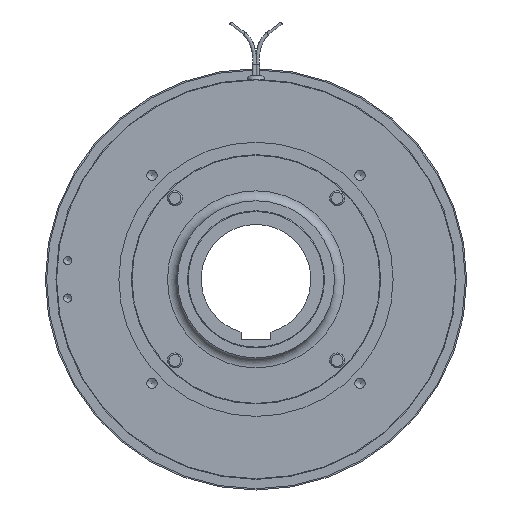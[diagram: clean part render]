
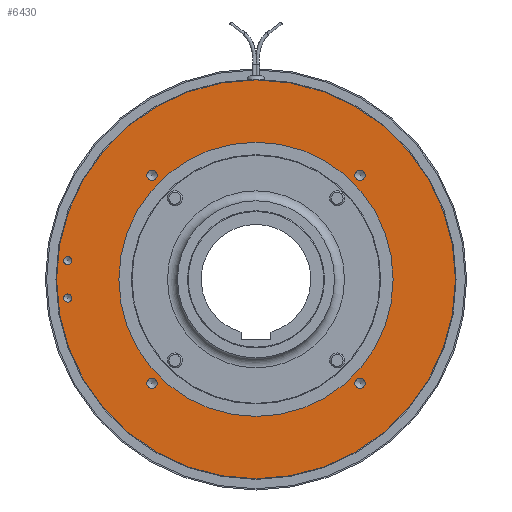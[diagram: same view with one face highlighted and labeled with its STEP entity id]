
A CAD part, left-side view. The second image highlights one B-rep face of the part: STEP entity #6430.
In plain terms, the highlighted planar face has unit normal (-1, 0, 0).
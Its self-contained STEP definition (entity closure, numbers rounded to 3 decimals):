
#526=FACE_BOUND('',#1419,.T.);
#527=FACE_BOUND('',#1420,.T.);
#528=FACE_BOUND('',#1421,.T.);
#529=FACE_BOUND('',#1422,.T.);
#530=FACE_BOUND('',#1423,.T.);
#531=FACE_BOUND('',#1424,.T.);
#532=FACE_BOUND('',#1425,.T.);
#649=PLANE('',#7286);
#972=FACE_OUTER_BOUND('',#1418,.T.);
#1418=EDGE_LOOP('',(#5938,#5939,#5940));
#1419=EDGE_LOOP('',(#5941,#5942));
#1420=EDGE_LOOP('',(#5943,#5944));
#1421=EDGE_LOOP('',(#5945,#5946));
#1422=EDGE_LOOP('',(#5947,#5948));
#1423=EDGE_LOOP('',(#5949,#5950));
#1424=EDGE_LOOP('',(#5951,#5952));
#1425=EDGE_LOOP('',(#5953,#5954));
#2571=CIRCLE('',#7258,80.);
#2572=CIRCLE('',#7259,80.);
#2573=CIRCLE('',#7261,80.);
#2589=CIRCLE('',#7284,55.);
#2590=CIRCLE('',#7285,55.);
#2591=CIRCLE('',#7287,1.621);
#2592=CIRCLE('',#7288,1.621);
#2593=CIRCLE('',#7289,1.621);
#2594=CIRCLE('',#7290,1.621);
#2595=CIRCLE('',#7291,2.067);
#2596=CIRCLE('',#7292,2.067);
#2597=CIRCLE('',#7293,2.067);
#2598=CIRCLE('',#7294,2.067);
#2599=CIRCLE('',#7295,2.067);
#2600=CIRCLE('',#7296,2.067);
#2601=CIRCLE('',#7297,2.067);
#2602=CIRCLE('',#7298,2.067);
#3225=VERTEX_POINT('',#11588);
#3226=VERTEX_POINT('',#11590);
#3227=VERTEX_POINT('',#11592);
#3245=VERTEX_POINT('',#11678);
#3246=VERTEX_POINT('',#11679);
#3247=VERTEX_POINT('',#11684);
#3248=VERTEX_POINT('',#11685);
#3249=VERTEX_POINT('',#11688);
#3250=VERTEX_POINT('',#11689);
#3251=VERTEX_POINT('',#11692);
#3252=VERTEX_POINT('',#11693);
#3253=VERTEX_POINT('',#11696);
#3254=VERTEX_POINT('',#11697);
#3255=VERTEX_POINT('',#11700);
#3256=VERTEX_POINT('',#11701);
#3257=VERTEX_POINT('',#11704);
#3258=VERTEX_POINT('',#11705);
#4127=EDGE_CURVE('',#3226,#3225,#2571,.T.);
#4128=EDGE_CURVE('',#3227,#3226,#2572,.T.);
#4134=EDGE_CURVE('',#3225,#3227,#2573,.T.);
#4153=EDGE_CURVE('',#3245,#3246,#2589,.T.);
#4155=EDGE_CURVE('',#3246,#3245,#2590,.T.);
#4156=EDGE_CURVE('',#3247,#3248,#2591,.T.);
#4157=EDGE_CURVE('',#3248,#3247,#2592,.T.);
#4158=EDGE_CURVE('',#3249,#3250,#2593,.T.);
#4159=EDGE_CURVE('',#3250,#3249,#2594,.T.);
#4160=EDGE_CURVE('',#3251,#3252,#2595,.T.);
#4161=EDGE_CURVE('',#3252,#3251,#2596,.T.);
#4162=EDGE_CURVE('',#3253,#3254,#2597,.T.);
#4163=EDGE_CURVE('',#3254,#3253,#2598,.T.);
#4164=EDGE_CURVE('',#3255,#3256,#2599,.T.);
#4165=EDGE_CURVE('',#3256,#3255,#2600,.T.);
#4166=EDGE_CURVE('',#3257,#3258,#2601,.T.);
#4167=EDGE_CURVE('',#3258,#3257,#2602,.T.);
#5938=ORIENTED_EDGE('',*,*,#4127,.T.);
#5939=ORIENTED_EDGE('',*,*,#4134,.T.);
#5940=ORIENTED_EDGE('',*,*,#4128,.T.);
#5941=ORIENTED_EDGE('',*,*,#4156,.T.);
#5942=ORIENTED_EDGE('',*,*,#4157,.T.);
#5943=ORIENTED_EDGE('',*,*,#4158,.T.);
#5944=ORIENTED_EDGE('',*,*,#4159,.T.);
#5945=ORIENTED_EDGE('',*,*,#4160,.T.);
#5946=ORIENTED_EDGE('',*,*,#4161,.T.);
#5947=ORIENTED_EDGE('',*,*,#4162,.T.);
#5948=ORIENTED_EDGE('',*,*,#4163,.T.);
#5949=ORIENTED_EDGE('',*,*,#4164,.T.);
#5950=ORIENTED_EDGE('',*,*,#4165,.T.);
#5951=ORIENTED_EDGE('',*,*,#4166,.T.);
#5952=ORIENTED_EDGE('',*,*,#4167,.T.);
#5953=ORIENTED_EDGE('',*,*,#4153,.F.);
#5954=ORIENTED_EDGE('',*,*,#4155,.F.);
#6430=ADVANCED_FACE('',(#972,#526,#527,#528,#529,#530,#531,#532),#649,.T.);
#7258=AXIS2_PLACEMENT_3D('',#11591,#9213,#9214);
#7259=AXIS2_PLACEMENT_3D('',#11593,#9215,#9216);
#7261=AXIS2_PLACEMENT_3D('',#11638,#9222,#9223);
#7284=AXIS2_PLACEMENT_3D('',#11680,#9271,#9272);
#7285=AXIS2_PLACEMENT_3D('',#11682,#9274,#9275);
#7286=AXIS2_PLACEMENT_3D('',#11683,#9276,#9277);
#7287=AXIS2_PLACEMENT_3D('',#11686,#9278,#9279);
#7288=AXIS2_PLACEMENT_3D('',#11687,#9280,#9281);
#7289=AXIS2_PLACEMENT_3D('',#11690,#9282,#9283);
#7290=AXIS2_PLACEMENT_3D('',#11691,#9284,#9285);
#7291=AXIS2_PLACEMENT_3D('',#11694,#9286,#9287);
#7292=AXIS2_PLACEMENT_3D('',#11695,#9288,#9289);
#7293=AXIS2_PLACEMENT_3D('',#11698,#9290,#9291);
#7294=AXIS2_PLACEMENT_3D('',#11699,#9292,#9293);
#7295=AXIS2_PLACEMENT_3D('',#11702,#9294,#9295);
#7296=AXIS2_PLACEMENT_3D('',#11703,#9296,#9297);
#7297=AXIS2_PLACEMENT_3D('',#11706,#9298,#9299);
#7298=AXIS2_PLACEMENT_3D('',#11707,#9300,#9301);
#9213=DIRECTION('center_axis',(-1.,0.,0.));
#9214=DIRECTION('ref_axis',(0.,1.,0.));
#9215=DIRECTION('center_axis',(-1.,0.,0.));
#9216=DIRECTION('ref_axis',(0.,1.,0.));
#9222=DIRECTION('center_axis',(-1.,0.,0.));
#9223=DIRECTION('ref_axis',(0.,1.,0.));
#9271=DIRECTION('center_axis',(-1.,0.,0.));
#9272=DIRECTION('ref_axis',(0.,1.,0.));
#9274=DIRECTION('center_axis',(-1.,0.,0.));
#9275=DIRECTION('ref_axis',(0.,1.,0.));
#9276=DIRECTION('center_axis',(-1.,0.,0.));
#9277=DIRECTION('ref_axis',(0.,0.,
1.));
#9278=DIRECTION('center_axis',(1.,0.,0.));
#9279=DIRECTION('ref_axis',(0.,0.,
1.));
#9280=DIRECTION('center_axis',(1.,0.,0.));
#9281=DIRECTION('ref_axis',(0.,0.,
1.));
#9282=DIRECTION('center_axis',(1.,0.,0.));
#9283=DIRECTION('ref_axis',(0.,0.,
1.));
#9284=DIRECTION('center_axis',(1.,0.,0.));
#9285=DIRECTION('ref_axis',(0.,0.,
1.));
#9286=DIRECTION('center_axis',(1.,0.,0.));
#9287=DIRECTION('ref_axis',(0.,0.,
1.));
#9288=DIRECTION('center_axis',(1.,0.,0.));
#9289=DIRECTION('ref_axis',(0.,0.,
1.));
#9290=DIRECTION('center_axis',(1.,0.,0.));
#9291=DIRECTION('ref_axis',(0.,0.,
1.));
#9292=DIRECTION('center_axis',(1.,0.,0.));
#9293=DIRECTION('ref_axis',(0.,0.,
1.));
#9294=DIRECTION('center_axis',(1.,0.,0.));
#9295=DIRECTION('ref_axis',(0.,0.,
1.));
#9296=DIRECTION('center_axis',(1.,0.,0.));
#9297=DIRECTION('ref_axis',(0.,0.,
1.));
#9298=DIRECTION('center_axis',(1.,0.,0.));
#9299=DIRECTION('ref_axis',(0.,0.,
1.));
#9300=DIRECTION('center_axis',(1.,0.,0.));
#9301=DIRECTION('ref_axis',(0.,0.,
1.));
#11588=CARTESIAN_POINT('',(-15.,-80.,0.));
#11590=CARTESIAN_POINT('',(-15.,80.,0.));
#11591=CARTESIAN_POINT('Origin',(-15.,0.,0.));
#11592=CARTESIAN_POINT('',(-15.,0.,80.));
#11593=CARTESIAN_POINT('Origin',(-15.,0.,0.));
#11638=CARTESIAN_POINT('Origin',(-15.,0.,0.));
#11678=CARTESIAN_POINT('',(-15.,55.,0.));
#11679=CARTESIAN_POINT('',(-15.,-55.,0.));
#11680=CARTESIAN_POINT('Origin',(-15.,0.,0.));
#11682=CARTESIAN_POINT('Origin',(-15.,0.,0.));
#11683=CARTESIAN_POINT('Origin',(-15.,67.5,0.));
#11684=CARTESIAN_POINT('',(-15.,75.5,9.121));
#11685=CARTESIAN_POINT('',(-15.,75.5,5.879));
#11686=CARTESIAN_POINT('Origin',(-15.,75.5,7.5));
#11687=CARTESIAN_POINT('Origin',(-15.,75.5,7.5));
#11688=CARTESIAN_POINT('',(-15.,75.5,-5.879));
#11689=CARTESIAN_POINT('',(-15.,75.5,-9.121));
#11690=CARTESIAN_POINT('Origin',(-15.,75.5,-7.5));
#11691=CARTESIAN_POINT('Origin',(-15.,75.5,-7.5));
#11692=CARTESIAN_POINT('',(-15.,41.719,43.786));
#11693=CARTESIAN_POINT('',(-15.,41.719,39.652));
#11694=CARTESIAN_POINT('Origin',(-15.,41.719,41.719));
#11695=CARTESIAN_POINT('Origin',(-15.,41.719,41.719));
#11696=CARTESIAN_POINT('',(-15.,-41.719,43.786));
#11697=CARTESIAN_POINT('',(-15.,-41.719,39.652));
#11698=CARTESIAN_POINT('Origin',(-15.,-41.719,41.719));
#11699=CARTESIAN_POINT('Origin',(-15.,-41.719,41.719));
#11700=CARTESIAN_POINT('',(-15.,-41.719,-39.652));
#11701=CARTESIAN_POINT('',(-15.,-41.719,-43.786));
#11702=CARTESIAN_POINT('Origin',(-15.,-41.719,-41.719));
#11703=CARTESIAN_POINT('Origin',(-15.,-41.719,-41.719));
#11704=CARTESIAN_POINT('',(-15.,41.719,-39.652));
#11705=CARTESIAN_POINT('',(-15.,41.719,-43.786));
#11706=CARTESIAN_POINT('Origin',(-15.,41.719,-41.719));
#11707=CARTESIAN_POINT('Origin',(-15.,41.719,-41.719));
